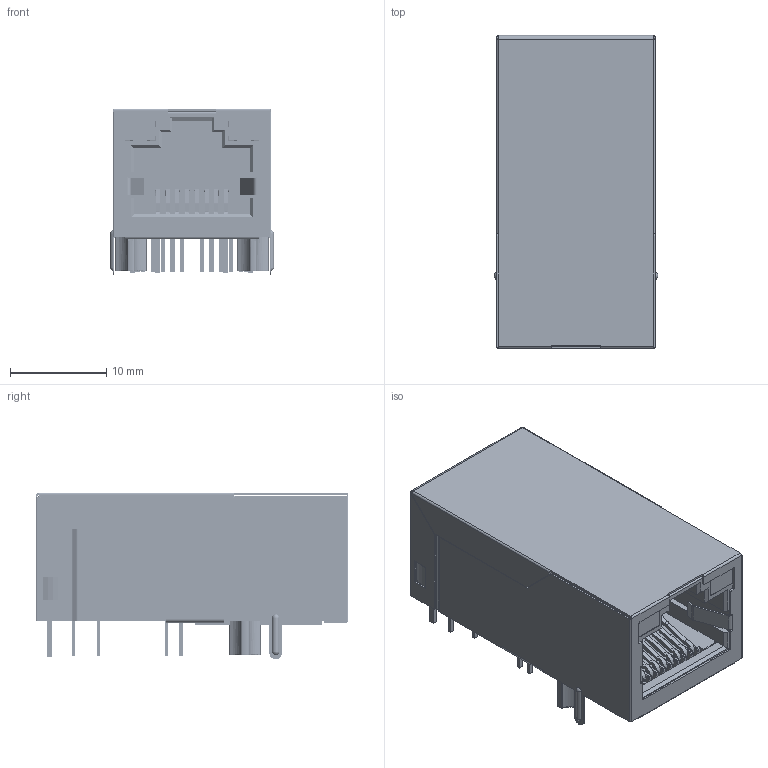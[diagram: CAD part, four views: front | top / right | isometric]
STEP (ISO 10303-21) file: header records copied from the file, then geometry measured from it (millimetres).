
FILE_DESCRIPTION((''),'2;1');
FILE_NAME('33_MM_ASM_1_ASM','2020-08-05T14:18:06',('Administrator'),(''),'CREO PARAMETRIC BY PTC INC, 2018400','CREO PARAMETRIC BY PTC INC, 2018400','');
FILE_SCHEMA(('CONFIG_CONTROL_DESIGN'));
Products named in the file (20): 33MM_00_1; 33_MM00_1; 100_1; 200_1; 300_1; 400_1; 500_1; 600_1; 700_1; 800_1; 000_1; 00_1; _0001_1_1; _0001_1_2; _0001_1_ASM; 0_1; LED_1; LED2_1; T1_1; 33_MM_ASM_1_ASM
Assembly tree (37 placements, depth 3):
  33_MM_ASM_1_ASM
    33MM_00_1
    33_MM00_1
    100_1
    200_1
    300_1
    400_1
    500_1
    600_1
    700_1
    800_1
    000_1
    00_1
    _0001_1_ASM  x4
      _0001_1_1
      _0001_1_2
    0_1  x16
    LED_1
    LED2_1
    T1_1
Bounding box: 17 x 32.5 x 17.3 mm (x, y, z)
Volume: 3744.1 mm3; surface area: 12144.9 mm2
Topology: 39 solids, 39 shells, 3165 faces, 7587 edges, 4474 vertices
Faces by surface type: bspline 1310, plane 1232, cylinder 483, torus 80, sphere 44, extrusion 16
Entity records: 140125 total; most frequent: CARTESIAN_POINT 91065, ORIENTED_EDGE 10606, DIRECTION 9137, EDGE_CURVE 5303, VECTOR 3437, LINE 3421, VERTEX_POINT 3298, AXIS2_PLACEMENT_3D 2850
